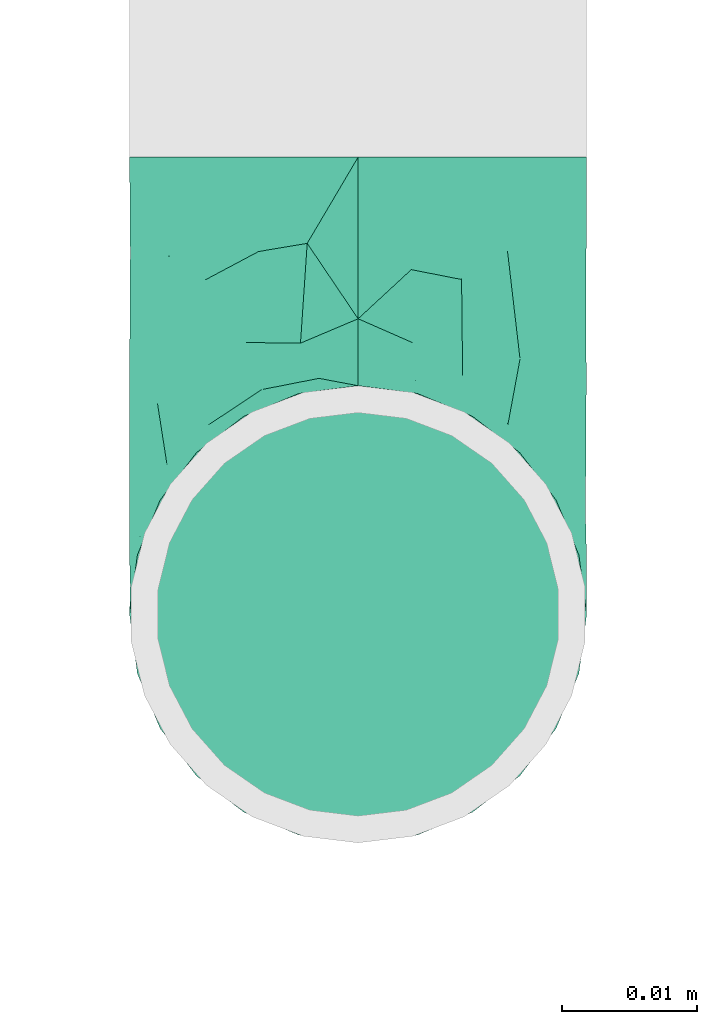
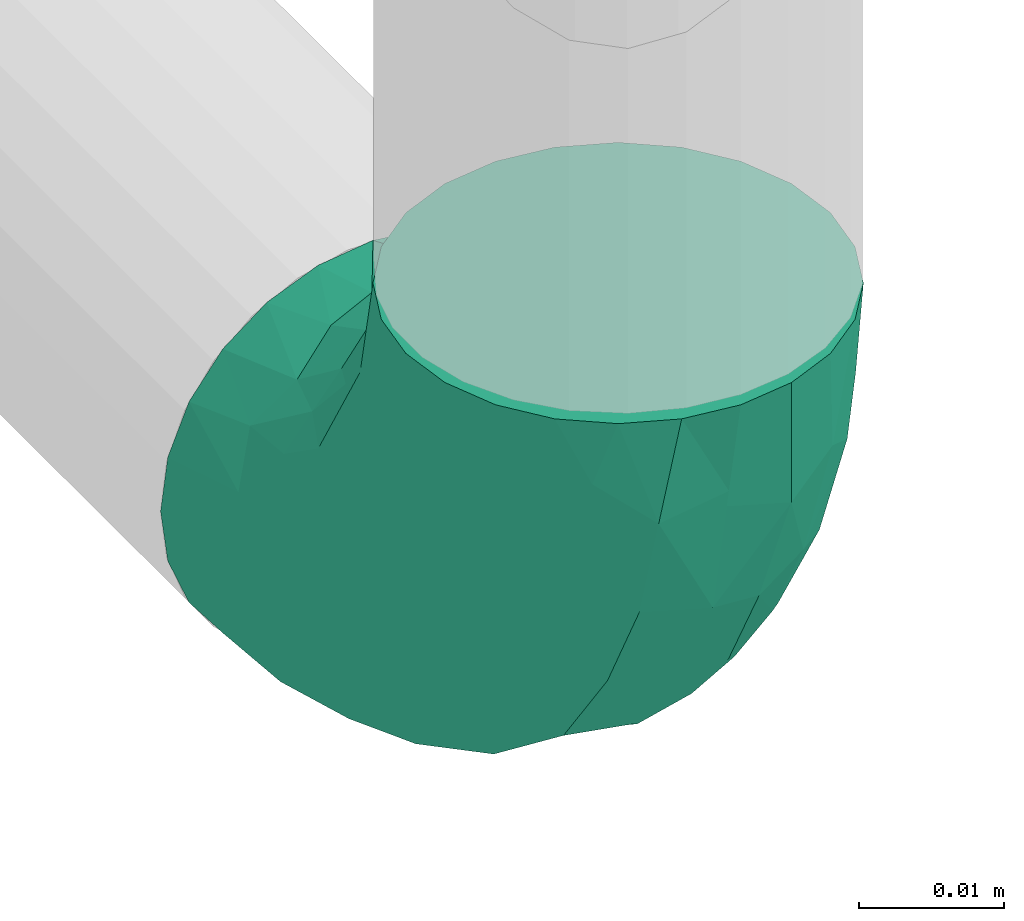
# One storey, part 102 of 157: 1 flow fitting.
"""IFC2X3 building model written with IfcOpenShell, lengths in millimetres."""

import ifcopenshell
import ifcopenshell.guid

model = None  # the IFC model being written
_history = None  # IfcOwnerHistory: only IFC2X3 demands one
_inside = {}  # id of a spatial element -> (the spatial element, [elements in it])
_under = {}  # id of a project, library or spatial element -> (it, [spatial elements below it])
_declared = {}  # id of a project -> (the project, [libraries it declares])
_typed = {}  # id of a type object -> (the type object, [elements of that type])
_made_of = {}  # id of a material, layer set ... -> (it, [elements and type objects made of it])


def new_model(schema):
    """Start an empty IFC model of exactly this schema.

    Asked for "IFC4X3", IfcOpenShell would pick the latest addendum, in which some entities
    have other attributes; the version numbers below select the first issue.
    IFC2X3 requires an IfcOwnerHistory on every rooted entity: one is made here for all.
    """
    global model, _history
    if schema == "IFC4X3":
        model = ifcopenshell.file(schema_version=(4, 3, 0, 0))
    else:
        model = ifcopenshell.file(schema=schema)
    _inside.clear()
    _under.clear()
    _declared.clear()
    _typed.clear()
    _made_of.clear()
    _history = None
    if model.schema == "IFC2X3":
        org = make("IfcOrganization", Name="unknown")
        user = make(
            "IfcPersonAndOrganization",
            ThePerson=make("IfcPerson", FamilyName="unknown"),
            TheOrganization=org,
        )
        app = make(
            "IfcApplication",
            ApplicationDeveloper=org,
            Version="unknown",
            ApplicationFullName="unknown",
            ApplicationIdentifier="unknown",
        )
        _history = make(
            "IfcOwnerHistory",
            OwningUser=user,
            OwningApplication=app,
            ChangeAction="ADDED",
            CreationDate=0,
        )
    return model


def make(cls, **values):
    """One entity of the class cls with the attributes given. An attribute that is None is left unset."""
    return model.create_entity(
        cls, **{name: value for name, value in values.items() if value is not None}
    )


def entity(cls, *values):
    """Any entity or typed value of the class cls, its attributes in the order of the schema. None: left unset."""
    e = model.create_entity(cls)
    for i, value in enumerate(values):
        if value is not None:
            e[i] = value
    return e


def rooted(cls, **values):
    """An entity with a GlobalId (a new one), such as an element, a storey or a relation."""
    return make(cls, GlobalId=ifcopenshell.guid.new(), OwnerHistory=_history, **values)


def si_unit(unit_type, name, prefix=None):
    """IfcSIUnit, for example si_unit("LENGTHUNIT", "METRE", prefix="MILLI")."""
    return make("IfcSIUnit", UnitType=unit_type, Prefix=prefix, Name=name)


def converted_unit(unit_type, name, factor, base, dimensions=None, offset=None):
    """IfcConversionBasedUnit, such as the inch: factor (a typed value) times the base unit."""
    return make(
        "IfcConversionBasedUnit"
        if offset is None
        else "IfcConversionBasedUnitWithOffset",
        ConversionOffset=offset,
        Dimensions=None
        if dimensions is None
        else entity("IfcDimensionalExponents", *dimensions),
        UnitType=unit_type,
        Name=name,
        ConversionFactor=make(
            "IfcMeasureWithUnit", ValueComponent=factor, UnitComponent=base
        ),
    )


def derived_unit(unit_type, elements):
    """IfcDerivedUnit: a product of units, each with its exponent."""
    return make(
        "IfcDerivedUnit",
        Elements=[
            make("IfcDerivedUnitElement", Unit=unit, Exponent=power)
            for unit, power in elements
        ],
        UnitType=unit_type,
    )


def assignment(units):
    """IfcUnitAssignment: the units of a project."""
    return None if units is None else make("IfcUnitAssignment", Units=units)


def point(xyz):
    """IfcCartesianPoint."""
    return None if xyz is None else make("IfcCartesianPoint", Coordinates=xyz)


def direction(xyz):
    """IfcDirection."""
    return None if xyz is None else make("IfcDirection", DirectionRatios=xyz)


def frame(location, z_axis=None, x_axis=None):
    """IfcAxis2Placement3D, a coordinate frame: its origin and axes. An axis left out is left unset."""
    return make(
        "IfcAxis2Placement3D",
        Location=point(location),
        Axis=direction(z_axis),
        RefDirection=direction(x_axis),
    )


def origin_with_axes():
    """The frame at (0, 0, 0) with the z axis (0, 0, 1) and the x axis (1, 0, 0) written out."""
    return frame((0.0, 0.0, 0.0), z_axis=(0.0, 0.0, 1.0), x_axis=(1.0, 0.0, 0.0))


def place(relative_to, where):
    """IfcLocalPlacement: puts the frame where relative to a parent placement (None: the world)."""
    return make(
        "IfcLocalPlacement", PlacementRelTo=relative_to, RelativePlacement=where
    )


def context(
    kind, dimensions, precision=None, world=None, true_north=None, identifier=None
):
    """IfcGeometricRepresentationContext, for example the 3D "Model" context."""
    return make(
        "IfcGeometricRepresentationContext",
        ContextIdentifier=identifier,
        ContextType=kind,
        CoordinateSpaceDimension=dimensions,
        Precision=precision,
        WorldCoordinateSystem=world,
        TrueNorth=true_north,
    )


def subcontext(parent, identifier, kind, view, scale=None):
    """IfcGeometricRepresentationSubContext, for example "Body" below "Model"."""
    return make(
        "IfcGeometricRepresentationSubContext",
        ContextIdentifier=identifier,
        ContextType=kind,
        ParentContext=parent,
        TargetScale=scale,
        TargetView=view,
    )


def project(units=None, contexts=None):
    """IfcProject with its units and contexts."""
    return rooted(
        "IfcProject",
        Name="project",
        RepresentationContexts=contexts,
        UnitsInContext=assignment(units),
    )


def spatial(cls, under=None, at=None, **own):
    """A site, building, storey or space (cls), placed at a placement, below another one or the project."""
    s = rooted(cls, ObjectPlacement=at, **own)
    if under is not None:
        _under.setdefault(under.id(), (under, []))[1].append(s)
    return s


def faces_of(points, faces, orient=None, outer=None):
    """IfcFace entities. A face is a list of loops; a loop is a list of indices into points, from 0.

    orient and outer hold one flag for each loop. By default every Orientation is true, the
    first loop of a face is its IfcFaceOuterBound and the others are IfcFaceBound.
    """
    made = []
    for i, loops in enumerate(faces):
        bounds = []
        for j, loop in enumerate(loops):
            is_outer = j == 0 if outer is None else outer[i][j]
            bounds.append(
                make(
                    "IfcFaceOuterBound" if is_outer else "IfcFaceBound",
                    Bound=make("IfcPolyLoop", Polygon=[points[k] for k in loop]),
                    Orientation=True if orient is None else orient[i][j],
                )
            )
        made.append(make("IfcFace", Bounds=bounds))
    return made


def open_shell(faces, orient=None, outer=None):
    """The faces of one IfcOpenShell. surface_model builds it on its shared points."""
    return ("IfcOpenShell", faces, orient, outer)


def surface_model(cls, points, shells):
    """IfcFaceBasedSurfaceModel or IfcShellBasedSurfaceModel (cls): surfaces that need not close."""
    shared = [point(p) for p in points]
    made = [make(c, CfsFaces=faces_of(shared, fs, o, b)) for c, fs, o, b in shells]
    if cls == "IfcFaceBasedSurfaceModel":
        return make(cls, FbsmFaces=made)
    return make(cls, SbsmBoundary=made)


def shape(context_of_items, identifier, shape_type, items):
    """IfcShapeRepresentation: the items that make up one representation, for example the "Body"."""
    return make(
        "IfcShapeRepresentation",
        ContextOfItems=context_of_items,
        RepresentationIdentifier=identifier,
        RepresentationType=shape_type,
        Items=items,
    )


def source(mapping_origin, context_of_items, identifier, shape_type, items):
    """IfcRepresentationMap: a shape defined once, which mapped items show again and again."""
    return make(
        "IfcRepresentationMap",
        MappingOrigin=mapping_origin,
        MappedRepresentation=shape(context_of_items, identifier, shape_type, items),
    )


def transform(
    local_origin,
    x_axis=None,
    y_axis=None,
    z_axis=None,
    scale=None,
    scale2=None,
    scale3=None,
    uniform=True,
):
    """IfcCartesianTransformationOperator3D, or its non-uniform kind. x_axis, y_axis, z_axis: its Axis1, 2, 3."""
    if uniform:
        return make(
            "IfcCartesianTransformationOperator3D",
            Axis1=direction(x_axis),
            Axis2=direction(y_axis),
            LocalOrigin=point(local_origin),
            Scale=scale,
            Axis3=direction(z_axis),
        )
    return make(
        "IfcCartesianTransformationOperator3DnonUniform",
        Axis1=direction(x_axis),
        Axis2=direction(y_axis),
        LocalOrigin=point(local_origin),
        Scale=scale,
        Axis3=direction(z_axis),
        Scale2=scale2,
        Scale3=scale3,
    )


def mapped(mapping_source, mapping_target):
    """IfcMappedItem: shows the shape of a source again, moved by a transform."""
    return make(
        "IfcMappedItem", MappingSource=mapping_source, MappingTarget=mapping_target
    )


def made_of(thing, what):
    """Note that an element or type object is made of a material, layer set ...; save() writes the relation."""
    if what is not None:
        _made_of.setdefault(what.id(), (what, []))[1].append(thing)
    return thing


def type_object(cls, material=None, **own):
    """A type object (cls), such as IfcWallType, which elements share."""
    return made_of(rooted(cls, **own), material)


def element(
    cls,
    number,
    at=None,
    inside=None,
    cuts=None,
    type_object=None,
    material=None,
    context=None,
    identifier="Body",
    shape_type=None,
    held_by="IfcProductDefinitionShape",
    body=None,
    shapes=None,
    **own,
):
    """One element of the class cls, such as IfcWall. Its Tag is "e" and its number.

    at: its placement. inside: the storey or other place that contains it. cuts: it is an
    opening in that element (IfcRelVoidsElement). A single representation is given by context,
    identifier, shape_type and body (its items); several are given by shapes. held_by: the class
    of the entity that holds the representations. save() writes the other relations.
    """
    e = rooted(cls, Tag="e%d" % number, ObjectPlacement=at, **own)
    if body is not None:
        shapes = [shape(context, identifier, shape_type, body)]
    if shapes is not None:
        e.Representation = make(held_by, Representations=shapes)
    if inside is not None:
        _inside.setdefault(inside.id(), (inside, []))[1].append(e)
    if cuts is not None:
        rooted(
            "IfcRelVoidsElement", RelatingBuildingElement=cuts, RelatedOpeningElement=e
        )
    if type_object is not None:
        _typed.setdefault(type_object.id(), (type_object, []))[1].append(e)
    return made_of(e, material)


def aggregate(whole, parts):
    """IfcRelAggregates: a whole, such as a stair, and the parts it consists of."""
    return rooted("IfcRelAggregates", RelatingObject=whole, RelatedObjects=parts)


def save(model, path):
    """Write the relations noted so far, then the file.

    IfcRelAggregates (storeys below a building ...), IfcRelContainedInSpatialStructure (elements
    in a storey), IfcRelDefinesByType, IfcRelAssociatesMaterial and IfcRelDeclares: one each for
    every whole, place, type object, material and project.
    """
    for whole, parts in _under.values():
        aggregate(whole, parts)
    for where, things in _inside.values():
        rooted(
            "IfcRelContainedInSpatialStructure",
            RelatedElements=things,
            RelatingStructure=where,
        )
    for kind, things in _typed.values():
        rooted("IfcRelDefinesByType", RelatedObjects=things, RelatingType=kind)
    for what, things in _made_of.values():
        rooted("IfcRelAssociatesMaterial", RelatedObjects=things, RelatingMaterial=what)
    for by, libraries in _declared.values():
        rooted("IfcRelDeclares", RelatingContext=by, RelatedDefinitions=libraries)
    model.write(path)


model = new_model("IFC2X3")

# Units and contexts
model_context = context("Model", 3, precision=0.01, world=frame((0.0, 4.29681676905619e-09, 0.0)), true_north=direction((4.01073788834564e-13, 1.0)))
plan_context = context("Plan", 3, precision=0.01, world=frame((0.0, 4.29681676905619e-09, 0.0)), true_north=direction((4.01073788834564e-13, 1.0)))
body_context = subcontext(model_context, "Body", "Model", "MODEL_VIEW")
ifc_project = project(units=[converted_unit("PLANEANGLEUNIT", "DEGREE", entity("IfcPositiveLengthMeasure", 0.0174532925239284), si_unit("PLANEANGLEUNIT", "RADIAN"), dimensions=[0, 0, 0, 0, 0, 0, 0]), si_unit("AREAUNIT", "SQUARE_METRE"), si_unit("LENGTHUNIT", "METRE", prefix="MILLI"), si_unit("MASSUNIT", "GRAM", prefix="KILO"), si_unit("POWERUNIT", "WATT"), si_unit("PRESSUREUNIT", "PASCAL"), si_unit("FORCEUNIT", "NEWTON", prefix="KILO"), si_unit("ELECTRICCURRENTUNIT", "AMPERE"), si_unit("THERMODYNAMICTEMPERATUREUNIT", "DEGREE_CELSIUS"), si_unit("TIMEUNIT", "SECOND"), si_unit("VOLUMEUNIT", "CUBIC_METRE"), derived_unit("LINEARVELOCITYUNIT", [(si_unit("LENGTHUNIT", "METRE"), 1), (si_unit("TIMEUNIT", "SECOND"), -1)]), derived_unit("VOLUMETRICFLOWRATEUNIT", [(si_unit("VOLUMEUNIT", "CUBIC_METRE"), 1), (si_unit("TIMEUNIT", "SECOND"), -1)]), derived_unit("THERMALTRANSMITTANCEUNIT", [(si_unit("POWERUNIT", "WATT"), 1), (si_unit("THERMODYNAMICTEMPERATUREUNIT", "KELVIN"), -1), (si_unit("AREAUNIT", "SQUARE_METRE"), -1)])], contexts=[model_context, plan_context])

# Site, building, storey
site_placement = place(None, frame((0.0, -4.29681676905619e-09, 0.0), z_axis=(0.0, 0.0, 1.0), x_axis=(1.0, 0.0, 0.0)))
site = spatial("IfcSite", under=ifc_project, at=site_placement, CompositionType="ELEMENT")
building_placement = place(site_placement, frame((0.0, 4.29681676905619e-09, 0.0), z_axis=(0.0, 0.0, 1.0), x_axis=(1.0, 0.0, 0.0)))
building = spatial("IfcBuilding", under=site, at=building_placement, Name="mc-building", CompositionType="ELEMENT")
storey_placement = place(building_placement, frame((0.0, 0.0, 204000.0), z_axis=(0.0, 0.0, 1.0), x_axis=(1.0, 0.0, 0.0)))
storey = spatial("IfcBuildingStorey", under=building, at=storey_placement, Name="Nivå D", CompositionType="ELEMENT", Elevation=204000.0)

# Flow fitting
pipe_fitting_type = type_object("IfcPipeFittingType", Name="magi_pipe_fe_elbow_short_001", PredefinedType="BEND")
shared_shape = source(origin_with_axes(), body_context, "Body", "SurfaceModel", [
    surface_model("IfcShellBasedSurfaceModel", [(-33.8, 8.45, -14.63583), (-33.8, 4.37404, -16.32415), (-33.8, 11.9501, -11.9501), (-33.8, -11.9501, -11.9501), (-33.8, -14.63583, -8.45), (-33.8, -8.45, -14.63583), (-33.8, 0.0, -16.9), (-33.8, -4.37404, -16.32415), (-33.8, -4.37404, 16.32415), (-33.8, 0.0, 16.9), (-33.8, -8.45, 14.63583), (-33.8, 16.32415, -4.37404), (-33.8, 14.63583, -8.45), (-33.8, -16.32415, -4.37404), (-33.8, -16.9, 0.0), (-33.8, -16.32415, 4.37404), (-33.8, 11.9501, 11.9501), (-33.8, 14.63583, 8.45), (-33.8, 16.32415, 4.37404), (-33.8, 4.37404, 16.32415), (-33.8, 8.45, 14.63583), (-33.8, -14.63583, 8.45), (-33.8, -11.9501, 11.9501), (-33.8, 16.9, 0.0), (-11.9501, 33.8, -11.9501), (0.0, 33.8, -16.9), (-4.37404, 33.8, -16.32415), (-8.45, 33.8, -14.63583), (-14.63583, 33.8, -8.45), (-16.32415, 33.8, -4.37404), (14.63583, 33.8, -8.45), (8.45, 33.8, 14.63583), (16.32415, 33.8, -4.37404), (8.45, 33.8, -14.63583), (11.9501, 33.8, -11.9501), (4.37404, 33.8, -16.32415), (16.32415, 33.8, 4.37404), (16.9, 33.8, 0.0), (-11.9501, 33.8, 11.9501), (-16.32415, 33.8, 4.37404), (-14.63583, 33.8, 8.45), (-8.45, 33.8, 14.63583), (-4.37404, 33.8, 16.32415), (11.9501, 33.8, 11.9501), (14.63583, 33.8, 8.45), (0.0, 33.8, 16.9), (4.37404, 33.8, 16.32415), (-16.9, 33.8, 0.0), (-24.79389, -13.12945, 9.48721), (-22.19287, -9.75018, 12.59315), (-24.09897, -14.97035, 0.0), (-14.93934, -10.76256, 8.5297), (-22.46095, -14.75051, 5.27077), (14.75051, 22.46094, 5.27077), (11.9251, 13.23888, 4.33236), (13.04069, 14.39795, 0.0), (7.71387, 13.68847, 11.55891), (9.75018, 22.19287, 12.59315), (4.10169, 13.0571, 14.04018), (-24.84007, -6.39063, 15.2048), (-25.81779, -2.23879, 16.61097), (-23.66549, 2.59054, 16.87119), (-26.50418, 14.06512, 11.08152), (-24.21253, 17.66365, 7.72657), (-29.58514, 15.86957, 7.00283), (-6.17382, -7.5455, 0.0), (-13.23888, -11.9251, 4.33236), (-14.39795, -13.04069, 0.0), (-17.81434, 18.87373, 11.97104), (-6.30846, 29.15138, 15.82987), (-2.31622, 25.28002, 16.85849), (-29.23923, 10.23435, 13.77053), (-1.45439, -2.85688, 7.61475), (-0.28326, 0.34872, 10.09509), (-5.74484, -4.04709, 10.4122), (-4.41137, 11.31918, 16.59407), (-8.39727, 3.10034, 15.7812), (-1.72649, 9.1306, 15.53089), (-17.39909, 24.75344, 7.64977), (-26.19233, 20.0512, 0.0), (-28.14518, 17.29657, 4.25857), (-26.05147, 6.6281, 15.96447), (-5.87354, 16.61944, 16.86968), (-12.51807, 12.51807, 16.48937), (-10.06312, 7.38516, 16.81295), (-3.01882, 3.01882, 13.81718), (-13.0571, -4.10169, 14.04018), (-16.82553, -0.15166, 16.38038), (10.76256, 14.93934, 8.5297), (13.12945, 24.79389, 9.48721), (6.39063, 24.84007, 15.2048), (2.23879, 25.81779, 16.61097), (-13.68847, -7.71387, 11.55891), (14.97035, 24.09897, 0.0), (-7.30894, 22.89991, 16.09489), (-10.67958, 26.17414, 14.008), (-12.78295, 18.26924, 15.06066), (-13.88562, 22.45231, 12.93244), (-18.04944, 15.16501, 14.04434), (-23.11658, 20.08178, 4.02986), (-21.84989, 21.84989, 0.0), (-18.55817, 25.48277, 3.93065), (-13.95142, 26.94732, 11.03289), (-18.57098, 7.23906, 16.59756), (-16.58335, 4.14122, 16.89279), (-17.96666, 11.46709, 15.63151), (-9.84453, 17.54304, 16.18938), (0.15166, 16.82553, 16.38038), (-23.27207, 11.47201, 14.23154), (3.84842, 5.86994, 10.70473), (-8.0212, -7.54413, 7.93275), (1.00345, -2.19508, 4.57414), (5.13203, 3.01004, 5.90201), (5.24161, 1.7543, 2.53265), (8.70457, 7.04947, 3.99182), (-20.0512, 26.19233, 0.0), (8.4852, 8.76699, 7.09296), (-4.55488, -6.72064, 4.90681), (2.05031, -2.05031, 0.0), (7.5455, 6.17382, 0.0), (-26.75399, 2.1369, -16.845), (-14.61995, 24.73803, -11.27736), (-28.45274, -13.45335, -9.81895), (-26.00469, 6.63555, -15.96645), (-23.06726, 20.04573, -4.26202), (-13.80647, -4.26506, -14.17873), (-14.67501, -0.21081, -16.07388), (-6.7902, -0.2828, -13.8478), (-24.53586, 11.08096, -14.13417), (-26.72048, 14.00837, -11.05776), (10.0967, 24.44989, -12.75976), (5.83237, 21.40218, -15.03047), (6.66249, 28.54238, -15.38093), (-20.38182, 15.48705, -12.74596), (12.53268, 21.23441, -9.15363), (12.54494, 15.67504, -5.54878), (9.7522, 12.89279, -8.66343), (-15.65186, 19.64213, -13.01327), (-12.03528, 20.66498, -14.67665), (-15.61907, 15.61906, -14.83879), (-25.56551, -15.26206, 0.0), (-24.65452, -15.12934, -5.50955), (13.45335, 28.45274, -9.81895), (15.12934, 24.65452, -5.50955), (-7.35442, -8.31014, -5.65563), (-15.67504, -12.54494, -5.54878), (-24.44989, -10.0967, -12.75976), (0.16522, 0.41303, -9.71728), (-5.70658, -5.33066, -8.89288), (-5.13869, -2.37198, -11.53565), (-21.23441, -12.53268, -9.15363), (0.71146, 7.93863, -14.09382), (0.21081, 14.67501, -16.07388), (3.49291, 14.42772, -14.76381), (-24.89911, -2.13088, -16.591), (-28.54238, -6.66249, -15.38093), (-18.44386, -7.71663, -13.26957), (2.13088, 24.89911, -16.591), (-28.64342, 17.44413, -2.89318), (1.70017, -1.28722, -5.09504), (-16.57067, 26.81947, -7.36596), (-17.69055, 27.4263, -3.76405), (-12.89279, -9.7522, -8.66343), (-5.96611, 5.96611, -15.95814), (-20.53709, 20.09345, -8.28985), (-2.1369, 26.75399, -16.845), (-6.89872, 24.58781, -16.02578), (-10.60739, 26.53157, -13.98044), (-21.40218, -5.83237, -15.03047), (2.93192, 5.89627, -11.55917), (6.89393, 12.61842, -11.82233), (5.58056, 5.95325, -8.79455), (-3.99512, 18.61798, -16.89635), (8.31014, 7.35442, -5.65563), (-9.1383, 9.86148, -16.89041), (-9.99983, 16.02119, -16.39699), (-16.68576, 9.78031, -16.34199), (-27.01915, 16.61158, -7.12979), (15.26206, 25.56551, 0.0), (-18.61798, 3.99512, -16.89635), (-19.37495, 27.82495, 0.0), (-12.61842, -6.89393, -11.82233), (-18.84705, 19.14018, -10.96545)], [open_shell([[[0, 1, 2]], [[3, 4, 5]], [[6, 7, 5]], [[8, 9, 10]], [[1, 6, 2]], [[11, 12, 2]], [[4, 2, 6]], [[2, 13, 10]], [[5, 4, 6]], [[2, 4, 13]], [[14, 15, 13]], [[11, 2, 16]], [[11, 17, 18]], [[11, 16, 17]], [[19, 20, 16]], [[16, 2, 10]], [[19, 16, 10]], [[21, 22, 15]], [[22, 13, 15]], [[22, 10, 13]], [[10, 9, 19]], [[11, 18, 23]], [[24, 25, 26]], [[24, 26, 27]], [[24, 28, 29]], [[25, 24, 30]], [[31, 32, 24]], [[33, 30, 34]], [[33, 35, 25]], [[25, 30, 33]], [[32, 30, 24]], [[32, 36, 37]], [[38, 24, 29]], [[39, 40, 29]], [[40, 38, 29]], [[38, 41, 42]], [[38, 31, 24]], [[31, 38, 42]], [[36, 43, 44]], [[36, 32, 43]], [[31, 45, 46]], [[32, 31, 43]], [[42, 45, 31]], [[39, 29, 47]], [[22, 48, 49]], [[15, 14, 50]], [[51, 48, 52]], [[53, 54, 55]], [[48, 22, 21]], [[15, 52, 21]], [[56, 57, 58]], [[49, 10, 22]], [[49, 59, 10]], [[9, 60, 61]], [[62, 63, 64]], [[65, 66, 67]], [[57, 43, 31]], [[62, 68, 63]], [[42, 69, 70]], [[20, 71, 16]], [[8, 60, 9]], [[72, 73, 74]], [[75, 76, 77]], [[16, 62, 17]], [[40, 39, 78]], [[79, 23, 80]], [[64, 18, 17]], [[9, 61, 19]], [[19, 81, 20]], [[82, 83, 84]], [[74, 85, 86]], [[59, 86, 87]], [[88, 89, 57]], [[90, 31, 46]], [[44, 53, 36]], [[46, 45, 91]], [[54, 53, 88]], [[44, 89, 53]], [[92, 86, 49]], [[89, 44, 43]], [[10, 59, 8]], [[53, 55, 93]], [[93, 36, 53]], [[66, 52, 67]], [[94, 82, 70]], [[95, 96, 94]], [[97, 98, 96]], [[79, 99, 100]], [[41, 38, 95]], [[101, 100, 99]], [[68, 78, 63]], [[42, 41, 69]], [[23, 18, 80]], [[95, 94, 69]], [[78, 101, 99]], [[38, 102, 95]], [[70, 45, 42]], [[97, 95, 102]], [[15, 50, 52]], [[90, 57, 31]], [[57, 90, 58]], [[81, 19, 61]], [[103, 104, 84]], [[105, 81, 103]], [[38, 40, 102]], [[106, 96, 83]], [[94, 106, 82]], [[91, 70, 107]], [[71, 62, 16]], [[62, 108, 98]], [[86, 59, 49]], [[67, 52, 50]], [[60, 59, 87]], [[92, 49, 51]], [[86, 85, 76]], [[91, 90, 46]], [[37, 36, 93]], [[107, 77, 58]], [[107, 58, 90]], [[58, 85, 109]], [[110, 74, 92]], [[72, 74, 110]], [[66, 51, 52]], [[72, 111, 112]], [[113, 114, 112]], [[56, 88, 57]], [[52, 48, 21]], [[49, 48, 51]], [[57, 89, 43]], [[53, 89, 88]], [[103, 81, 61]], [[71, 81, 108]], [[18, 64, 80]], [[63, 78, 99]], [[47, 115, 101]], [[101, 115, 100]], [[40, 78, 102]], [[68, 102, 78]], [[97, 96, 95]], [[105, 98, 108]], [[103, 84, 83]], [[107, 70, 82]], [[76, 84, 87]], [[82, 84, 75]], [[70, 91, 45]], [[90, 91, 107]], [[59, 60, 8]], [[61, 60, 87]], [[73, 85, 74]], [[109, 112, 116]], [[103, 61, 104]], [[105, 103, 83]], [[96, 105, 83]], [[81, 105, 108]], [[96, 98, 105]], [[62, 98, 68]], [[61, 87, 104]], [[87, 84, 104]], [[86, 76, 87]], [[77, 76, 85]], [[58, 77, 85]], [[75, 77, 107]], [[82, 75, 107]], [[76, 75, 84]], [[81, 71, 20]], [[62, 71, 108]], [[95, 69, 41]], [[70, 69, 94]], [[62, 64, 17]], [[80, 63, 99]], [[63, 80, 64]], [[80, 99, 79]], [[66, 65, 117]], [[110, 66, 117]], [[112, 114, 116]], [[118, 117, 65]], [[110, 92, 51]], [[112, 111, 113]], [[119, 55, 54]], [[74, 86, 92]], [[58, 109, 56]], [[116, 56, 109]], [[66, 110, 51]], [[72, 110, 117]], [[111, 72, 117]], [[73, 112, 109]], [[117, 118, 111]], [[113, 111, 118]], [[118, 119, 113]], [[114, 119, 54]], [[119, 114, 113]], [[116, 54, 88]], [[54, 116, 114]], [[116, 88, 56]], [[112, 73, 72]], [[85, 73, 109]], [[78, 39, 101]], [[47, 101, 39]], [[102, 68, 97]], [[97, 68, 98]], [[82, 106, 83]], [[94, 96, 106]], [[1, 120, 6]], [[28, 24, 121]], [[3, 122, 4]], [[0, 123, 1]], [[100, 124, 79]], [[125, 126, 127]], [[128, 2, 129]], [[130, 131, 132]], [[128, 129, 133]], [[134, 135, 136]], [[137, 138, 139]], [[128, 0, 2]], [[67, 140, 141]], [[134, 142, 143]], [[141, 13, 4]], [[144, 65, 145]], [[146, 3, 5]], [[147, 148, 149]], [[145, 141, 150]], [[151, 152, 153]], [[154, 7, 6]], [[5, 155, 146]], [[150, 146, 156]], [[155, 5, 7]], [[143, 135, 134]], [[35, 157, 25]], [[23, 79, 158]], [[148, 159, 144]], [[160, 161, 29]], [[145, 162, 144]], [[163, 152, 151]], [[29, 28, 160]], [[121, 164, 160]], [[33, 34, 130]], [[25, 165, 26]], [[26, 165, 166]], [[142, 34, 30]], [[24, 27, 167]], [[124, 161, 164]], [[157, 35, 132]], [[155, 154, 168]], [[123, 0, 128]], [[169, 170, 171]], [[172, 157, 152]], [[26, 166, 27]], [[132, 35, 33]], [[142, 130, 34]], [[168, 154, 126]], [[136, 135, 173]], [[133, 137, 139]], [[2, 12, 129]], [[170, 131, 130]], [[30, 32, 143]], [[172, 174, 175]], [[176, 123, 128]], [[158, 177, 11]], [[135, 55, 119]], [[167, 27, 166]], [[175, 166, 172]], [[137, 167, 138]], [[122, 141, 4]], [[140, 14, 13]], [[32, 37, 178]], [[170, 130, 134]], [[152, 157, 131]], [[165, 157, 172]], [[153, 170, 151]], [[152, 163, 174]], [[168, 125, 156]], [[122, 146, 150]], [[120, 154, 6]], [[179, 174, 126]], [[179, 126, 154]], [[126, 163, 127]], [[162, 145, 150]], [[140, 13, 141]], [[32, 178, 143]], [[55, 143, 178]], [[177, 129, 12]], [[128, 133, 139]], [[176, 128, 139]], [[120, 123, 179]], [[121, 160, 28]], [[161, 100, 180]], [[166, 175, 138]], [[121, 24, 167]], [[161, 47, 29]], [[79, 124, 158]], [[124, 164, 177]], [[161, 124, 100]], [[136, 171, 170]], [[127, 163, 151]], [[147, 171, 159]], [[148, 144, 162]], [[127, 151, 169]], [[127, 181, 125]], [[129, 177, 164]], [[12, 11, 177]], [[159, 65, 144]], [[67, 141, 145]], [[143, 55, 135]], [[135, 119, 173]], [[123, 120, 1]], [[154, 120, 179]], [[157, 165, 25]], [[166, 165, 172]], [[172, 152, 174]], [[176, 139, 175]], [[126, 174, 163]], [[176, 174, 179]], [[174, 176, 175]], [[123, 176, 179]], [[150, 181, 162]], [[127, 149, 181]], [[181, 148, 162]], [[159, 148, 147]], [[171, 136, 173]], [[170, 134, 136]], [[159, 171, 173]], [[171, 147, 169]], [[169, 147, 149]], [[151, 170, 169]], [[164, 182, 129]], [[182, 121, 137]], [[181, 149, 148]], [[169, 149, 127]], [[182, 137, 133]], [[167, 137, 121]], [[166, 138, 167]], [[175, 139, 138]], [[129, 182, 133]], [[121, 182, 164]], [[161, 160, 164]], [[47, 161, 180]], [[177, 158, 124]], [[23, 158, 11]], [[130, 132, 33]], [[157, 132, 131]], [[143, 142, 30]], [[130, 142, 134]], [[154, 155, 7]], [[146, 155, 168]], [[146, 122, 3]], [[141, 122, 150]], [[152, 131, 153]], [[159, 119, 118]], [[67, 145, 65]], [[170, 153, 131]], [[119, 159, 173]], [[159, 118, 65]], [[156, 125, 181]], [[126, 125, 168]], [[150, 156, 181]], [[168, 156, 146]]])]),
])
flow_fitting_placement = place(storey_placement, frame((528840.35, 413540.00018, 2690.0), z_axis=(1.0, 0.0, 0.0), x_axis=(0.0, 0.0, -1.0)))
element("IfcFlowFitting", 1, at=flow_fitting_placement, inside=storey, type_object=pipe_fitting_type, Name="magi_pipe_fe_elbow_short_001", context=body_context, shape_type="MappedRepresentation", body=[
    mapped(shared_shape, transform((0.0, 0.0, 0.0), scale=1.0)),
])

save(model, "model.ifc")
